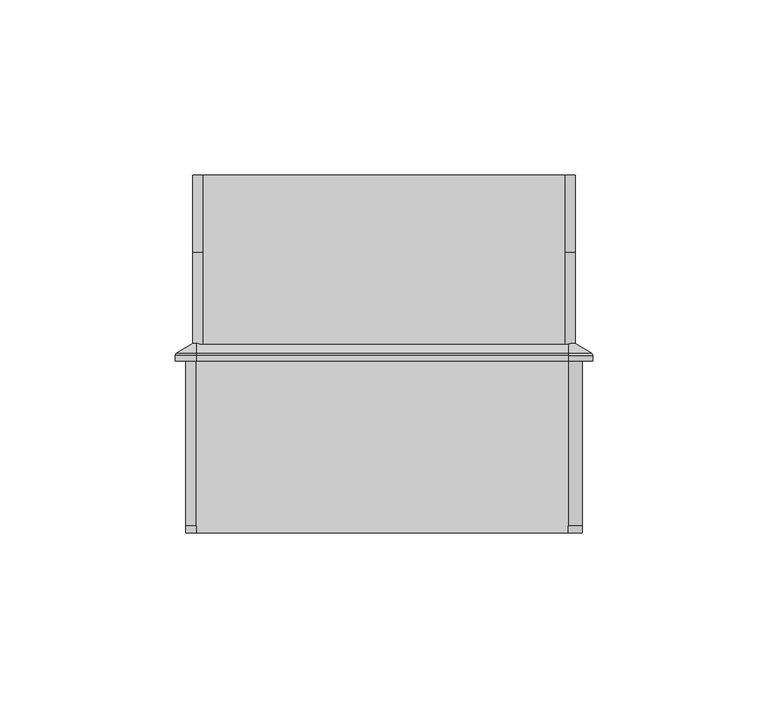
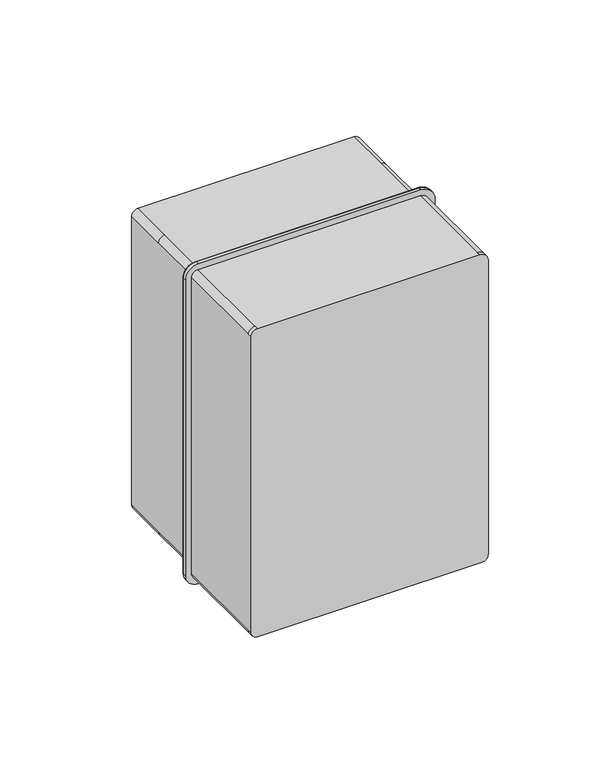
"""IFC4 building model written with IfcOpenShell, lengths in millimetres: proxy geometry, ЩРН-П-5_8_IP65 : ЩРН-П-5_IP65."""

from ifc_helpers import new_model, si_unit, point, frame, origin, place, context, project, spatial, polyline, circle_curve, ellipse_curve, trimmed, outline, extrude, source, transform, mapped, element, save
from ifc_brep_helpers import plane_surface, cylinder_surface, revolved_surface, advanced_brep


def electrical_equipment_affdbc4a(model_context):
    return source(origin(), model_context, "Body", "SolidModel", [
        extrude(outline(polyline([(52.5, 82.0), (-52.5, 82.0), (-52.5, 102.0), (52.5, 102.0), (52.5, 82.0)])), frame((0.0, 0.0, -57.5), z_axis=(0.0, 0.0, 1.0), x_axis=(1.0, 0.0, 0.0)), (0.0, 0.0, 1.0), 115.0),
        advanced_brep(
        [(-53.5, 0.0, 77.5), (-56.5, 0.0, 74.5), (-56.5, 0.0, -74.5), (-53.5, 0.0, -77.5), (53.5, 0.0, -77.5), (56.5, 0.0, -74.5), (56.5, 0.0, 73.5283006), (52.5283006, 0.0, 77.5), (-53.5, 2.0, 77.5), (-56.5, 2.0, 74.5), (-56.5, 49.0, 74.5), (-56.5, 49.0, -74.5), (-56.5, 2.0, -74.5), (-53.5, 2.0, -77.5), (-53.5, 49.0, -77.5), (53.5, 49.0, -77.5), (53.5, 2.0, -77.5), (56.5, 2.0, -74.5), (56.5, 49.0, -74.5), (56.5, 49.0, 73.5283006), (56.5, 2.0, 73.5283006), (52.5283006, 2.0, 77.5), (52.5283006, 49.0, 77.5), (-53.5, 49.0, 77.5)],
        [
            (0, 1, circle_curve(frame((-53.5, 0.0, 74.5), z_axis=(0.0, -1.0, 0.0), x_axis=(1.0, 0.0, 0.0)), 3.0)),
            (1, 2),
            (2, 3, circle_curve(frame((-53.5, 0.0, -74.5), z_axis=(0.0, -1.0, 0.0), x_axis=(1.0, 0.0, 0.0)), 3.0)),
            (3, 4),
            (4, 5, circle_curve(frame((53.5, 0.0, -74.5), z_axis=(0.0, -1.0, 0.0), x_axis=(1.0, 0.0, 0.0)), 3.0)),
            (5, 6),
            (6, 7, circle_curve(frame((52.5283006, 0.0, 73.5283006), z_axis=(0.0, -1.0, 0.0), x_axis=(1.0, 0.0, 0.0)), 3.9716994)),
            (7, 0),
            (0, 8),
            (8, 9, circle_curve(frame((-53.5, 2.0, 74.5), z_axis=(0.0, -1.0, 0.0), x_axis=(1.0, 0.0, 0.0)), 3.0)),
            (9, 1),
            (9, 10),
            (10, 11),
            (11, 12),
            (12, 2),
            (12, 13, circle_curve(frame((-53.5, 2.0, -74.5), z_axis=(0.0, -1.0, 0.0), x_axis=(1.0, 0.0, 0.0)), 3.0)),
            (13, 3),
            (13, 14),
            (14, 15),
            (15, 16),
            (16, 4),
            (16, 17, circle_curve(frame((53.5, 2.0, -74.5), z_axis=(0.0, -1.0, 0.0), x_axis=(1.0, 0.0, 0.0)), 3.0)),
            (17, 5),
            (17, 18),
            (18, 19),
            (19, 20),
            (20, 6),
            (20, 21, circle_curve(frame((52.5283006, 2.0, 73.5283006), z_axis=(0.0, -1.0, 0.0), x_axis=(1.0, 0.0, 0.0)), 3.9716994)),
            (21, 7),
            (21, 22),
            (22, 23),
            (23, 8),
            (22, 19, circle_curve(frame((52.5283006, 49.0, 73.5283006), z_axis=(0.0, 1.0, 0.0), x_axis=(1.0, 0.0, 0.0)), 3.9716994)),
            (18, 15, circle_curve(frame((53.5, 49.0, -74.5), z_axis=(0.0, 1.0, 0.0), x_axis=(1.0, 0.0, 0.0)), 3.0)),
            (14, 11, circle_curve(frame((-53.5, 49.0, -74.5), z_axis=(0.0, 1.0, 0.0), x_axis=(1.0, 0.0, 0.0)), 3.0)),
            (10, 23, circle_curve(frame((-53.5, 49.0, 74.5), z_axis=(0.0, 1.0, 0.0), x_axis=(1.0, 0.0, 0.0)), 3.0)),
        ],
        [
            plane_surface(frame((-50.5, 0.0, 74.5), z_axis=(0.0, -1.0, 0.0), x_axis=(0.0, 0.0, 1.0))),
            cylinder_surface(frame((-53.5, 2.0, 74.5), z_axis=(0.0, -1.0, 0.0), x_axis=(1.0, 0.0, 0.0)), 3.0),
            plane_surface(frame((-56.5, 0.0, 74.5), z_axis=(-1.0, 0.0, 0.0), x_axis=(0.0, 1.0, 0.0))),
            cylinder_surface(frame((-53.5, 2.0, -74.5), z_axis=(0.0, -1.0, 0.0), x_axis=(1.0, 0.0, 0.0)), 3.0),
            plane_surface(frame((-53.5, 0.0, -77.5), z_axis=(0.0, 0.0, -1.0), x_axis=(0.0, 1.0, 0.0))),
            cylinder_surface(frame((53.5, 2.0, -74.5), z_axis=(0.0, -1.0, 0.0), x_axis=(1.0, 0.0, 0.0)), 3.0),
            plane_surface(frame((56.5, 0.0, -74.5), z_axis=(1.0, 0.0, 0.0), x_axis=(0.0, 1.0, 0.0))),
            cylinder_surface(frame((52.5283006, 2.0, 73.5283006), z_axis=(0.0, -1.0, 0.0), x_axis=(1.0, 0.0, 0.0)), 3.9716994),
            plane_surface(frame((52.5283006, 0.0, 77.5), z_axis=(0.0, 0.0, 1.0), x_axis=(0.0, 1.0, 0.0))),
            plane_surface(frame((-53.5, 49.0, 77.5), z_axis=(0.0, 1.0, 0.0), x_axis=(1.0, 0.0, 0.0))),
            cylinder_surface(frame((-53.5, 49.0, 74.5), z_axis=(0.0, -1.0, 0.0), x_axis=(1.0, 0.0, 0.0)), 3.0),
            cylinder_surface(frame((-53.5, 49.0, -74.5), z_axis=(0.0, -1.0, 0.0), x_axis=(1.0, 0.0, 0.0)), 3.0),
            cylinder_surface(frame((53.5, 49.0, -74.5), z_axis=(0.0, -1.0, 0.0), x_axis=(1.0, 0.0, 0.0)), 3.0),
            cylinder_surface(frame((52.5283006, 49.0, 73.5283006), z_axis=(0.0, -1.0, 0.0), x_axis=(1.0, 0.0, 0.0)), 3.9716994),
        ],
        [
            (0, [[1, 2, 3, 4, 5, 6, 7, 8]]),
            (1, [[-1, 9, 10, 11]]),
            (2, [[-2, -11, 12, 13, 14, 15]]),
            (3, [[-3, -15, 16, 17]]),
            (4, [[-4, -17, 18, 19, 20, 21]]),
            (5, [[-5, -21, 22, 23]]),
            (6, [[-6, -23, 24, 25, 26, 27]]),
            (7, [[-7, -27, 28, 29]]),
            (8, [[-8, -29, 30, 31, 32, -9]]),
            (9, [[33, -25, 34, -19, 35, -13, 36, -31]]),
            (10, [[-36, -12, -10, -32]]),
            (11, [[-35, -18, -16, -14]]),
            (12, [[-34, -24, -22, -20]]),
            (13, [[-33, -30, -28, -26]]),
        ],
    ),
        advanced_brep(
        [(51.5, 102.0, 75.5), (54.5, 102.0, 72.5), (54.5, 102.0, -72.5), (51.5, 102.0, -75.5), (-51.5, 102.0, -75.5), (-54.5, 102.0, -72.5), (-54.5, 102.0, 72.5), (-51.5, 102.0, 75.5), (52.5, 102.0, 57.4981471), (-52.5, 102.0, 57.4981471), (-52.5, 102.0, -57.4981471), (52.5, 102.0, -57.4981471), (52.5, 80.0, 57.4981471), (47.9911629, 80.0, 57.4981471), (47.9911629, 49.0, 57.4981471), (-47.9911629, 49.0, 57.4981471), (-47.9911629, 80.0, 57.4981471), (-52.5, 80.0, 57.4981471), (-52.5, 80.0, -57.4981471), (-47.9911629, 80.0, -57.4981471), (-47.9911629, 49.0, -57.4981471), (47.9911629, 49.0, -57.4981471), (47.9911629, 80.0, -57.4981471), (52.5, 80.0, -57.4981471), (-51.5, 80.0, 75.5), (-51.5, 49.0, 75.5), (51.5, 49.0, 75.5), (51.5, 80.0, 75.5), (-54.5, 80.0, 72.5), (-54.5, 80.0, -72.5), (-54.5, 49.0, -72.5), (-54.5, 49.0, 72.5), (-51.5, 80.0, -75.5), (51.5, 80.0, -75.5), (51.5, 49.0, -75.5), (-51.5, 49.0, -75.5), (54.5, 80.0, -72.5), (54.5, 80.0, 72.5), (54.5, 49.0, 72.5), (54.5, 49.0, -72.5)],
        [
            (0, 1, circle_curve(frame((51.5, 102.0, 72.5), z_axis=(0.0, 1.0, 0.0), x_axis=(1.0, 0.0, 0.0)), 3.0)),
            (1, 2),
            (2, 3, circle_curve(frame((51.5, 102.0, -72.5), z_axis=(0.0, 1.0, 0.0), x_axis=(1.0, 0.0, 0.0)), 3.0)),
            (3, 4),
            (4, 5, circle_curve(frame((-51.5, 102.0, -72.5), z_axis=(0.0, 1.0, 0.0), x_axis=(1.0, 0.0, 0.0)), 3.0)),
            (5, 6),
            (6, 7, circle_curve(frame((-51.5, 102.0, 72.5), z_axis=(0.0, 1.0, 0.0), x_axis=(1.0, 0.0, 0.0)), 3.0)),
            (7, 0),
            (8, 9),
            (9, 10),
            (10, 11),
            (11, 8),
            (8, 12),
            (12, 13),
            (13, 14),
            (14, 15),
            (15, 16),
            (16, 17),
            (17, 9),
            (17, 18),
            (18, 10),
            (18, 19),
            (19, 20),
            (20, 21),
            (21, 22),
            (22, 23),
            (23, 11),
            (23, 12),
            (7, 24),
            (24, 25),
            (25, 26),
            (26, 27),
            (27, 0),
            (6, 28),
            (28, 24, circle_curve(frame((-51.5, 80.0, 72.5), z_axis=(0.0, 1.0, 0.0), x_axis=(1.0, 0.0, 0.0)), 3.0)),
            (5, 29),
            (29, 30),
            (30, 31),
            (31, 28),
            (4, 32),
            (32, 29, circle_curve(frame((-51.5, 80.0, -72.5), z_axis=(0.0, 1.0, 0.0), x_axis=(1.0, 0.0, 0.0)), 3.0)),
            (3, 33),
            (33, 34),
            (34, 35),
            (35, 32),
            (2, 36),
            (36, 33, circle_curve(frame((51.5, 80.0, -72.5), z_axis=(0.0, 1.0, 0.0), x_axis=(1.0, 0.0, 0.0)), 3.0)),
            (1, 37),
            (37, 38),
            (38, 39),
            (39, 36),
            (27, 37, circle_curve(frame((51.5, 80.0, 72.5), z_axis=(0.0, 1.0, 0.0), x_axis=(1.0, 0.0, 0.0)), 3.0)),
            (25, 31, circle_curve(frame((-51.5, 49.0, 72.5), z_axis=(0.0, -1.0, 0.0), x_axis=(1.0, 0.0, 0.0)), 3.0)),
            (30, 35, circle_curve(frame((-51.5, 49.0, -72.5), z_axis=(0.0, -1.0, 0.0), x_axis=(1.0, 0.0, 0.0)), 3.0)),
            (34, 39, circle_curve(frame((51.5, 49.0, -72.5), z_axis=(0.0, -1.0, 0.0), x_axis=(1.0, 0.0, 0.0)), 3.0)),
            (38, 26, circle_curve(frame((51.5, 49.0, 72.5), z_axis=(0.0, -1.0, 0.0), x_axis=(1.0, 0.0, 0.0)), 3.0)),
            (14, 21),
            (20, 15),
            (16, 19),
            (22, 13),
        ],
        [
            plane_surface(frame((52.5, 102.0, 57.4981471), z_axis=(0.0, 1.0, 0.0), x_axis=(0.0, 0.0, 1.0))),
            plane_surface(frame((-52.5, 80.0, 57.4981471), z_axis=(0.0, 0.0, -1.0), x_axis=(0.0, 1.0, 0.0))),
            plane_surface(frame((-52.5, 80.0, -57.4981471), z_axis=(1.0, 0.0, 0.0), x_axis=(0.0, 1.0, 0.0))),
            plane_surface(frame((52.5, 80.0, -57.4981471), z_axis=(0.0, 0.0, 1.0), x_axis=(0.0, 1.0, 0.0))),
            plane_surface(frame((52.5, 80.0, 57.4981471), z_axis=(-1.0, 0.0, 0.0), x_axis=(0.0, 1.0, 0.0))),
            plane_surface(frame((51.5, 80.0, 75.5), z_axis=(0.0, 0.0, 1.0), x_axis=(0.0, 1.0, 0.0))),
            cylinder_surface(frame((-51.5, 102.0, 72.5), z_axis=(0.0, -1.0, 0.0), x_axis=(1.0, 0.0, 0.0)), 3.0),
            plane_surface(frame((-54.5, 80.0, 72.5), z_axis=(-1.0, 0.0, 0.0), x_axis=(0.0, 1.0, 0.0))),
            cylinder_surface(frame((-51.5, 102.0, -72.5), z_axis=(0.0, -1.0, 0.0), x_axis=(1.0, 0.0, 0.0)), 3.0),
            plane_surface(frame((-51.5, 80.0, -75.5), z_axis=(0.0, 0.0, -1.0), x_axis=(0.0, 1.0, 0.0))),
            cylinder_surface(frame((51.5, 102.0, -72.5), z_axis=(0.0, -1.0, 0.0), x_axis=(1.0, 0.0, 0.0)), 3.0),
            plane_surface(frame((54.5, 80.0, -72.5), z_axis=(1.0, 0.0, 0.0), x_axis=(0.0, 1.0, 0.0))),
            cylinder_surface(frame((51.5, 102.0, 72.5), z_axis=(0.0, -1.0, 0.0), x_axis=(1.0, 0.0, 0.0)), 3.0),
            plane_surface(frame((47.9911629, 49.0, 57.4981471), z_axis=(0.0, -1.0, 0.0), x_axis=(0.0, 0.0, -1.0))),
            plane_surface(frame((47.9911629, 80.0, 57.4981471), z_axis=(0.0, 1.0, 0.0), x_axis=(0.0, 0.0, 1.0))),
            plane_surface(frame((-47.9911629, 49.0, -57.4981471), z_axis=(1.0, 0.0, 0.0), x_axis=(0.0, 1.0, 0.0))),
            plane_surface(frame((47.9911629, 49.0, 57.4981471), z_axis=(-1.0, 0.0, 0.0), x_axis=(0.0, 1.0, 0.0))),
            cylinder_surface(frame((-51.5, 80.0, 72.5), z_axis=(0.0, -1.0, 0.0), x_axis=(1.0, 0.0, 0.0)), 3.0),
            cylinder_surface(frame((-51.5, 80.0, -72.5), z_axis=(0.0, -1.0, 0.0), x_axis=(1.0, 0.0, 0.0)), 3.0),
            cylinder_surface(frame((51.5, 80.0, -72.5), z_axis=(0.0, -1.0, 0.0), x_axis=(1.0, 0.0, 0.0)), 3.0),
            cylinder_surface(frame((51.5, 80.0, 72.5), z_axis=(0.0, -1.0, 0.0), x_axis=(1.0, 0.0, 0.0)), 3.0),
        ],
        [
            (0, [[1, 2, 3, 4, 5, 6, 7, 8], [9, 10, 11, 12]]),
            (1, [[-9, 13, 14, 15, 16, 17, 18, 19]]),
            (2, [[-10, -19, 20, 21]]),
            (3, [[-11, -21, 22, 23, 24, 25, 26, 27]]),
            (4, [[-12, -27, 28, -13]]),
            (5, [[-8, 29, 30, 31, 32, 33]]),
            (6, [[-7, 34, 35, -29]]),
            (7, [[-6, 36, 37, 38, 39, -34]]),
            (8, [[-5, 40, 41, -36]]),
            (9, [[-4, 42, 43, 44, 45, -40]]),
            (10, [[-3, 46, 47, -42]]),
            (11, [[-2, 48, 49, 50, 51, -46]]),
            (12, [[-1, -33, 52, -48]]),
            (13, [[-31, 53, -38, 54, -44, 55, -50, 56], [57, -24, 58, -16]]),
            (14, [[59, -22, -20, -18]]),
            (14, [[60, -14, -28, -26]]),
            (15, [[-58, -23, -59, -17]]),
            (16, [[-57, -15, -60, -25]]),
            (17, [[-53, -30, -35, -39]]),
            (18, [[-54, -37, -41, -45]]),
            (19, [[-55, -43, -47, -51]]),
            (20, [[-56, -49, -52, -32]]),
        ],
    ),
        advanced_brep(
        [(-59.4898142, 49.0, 74.507075), (-53.4776209, 49.0, 80.5192684), (-53.4776209, 50.5470477, 80.5192684), (-59.4898142, 50.5470477, 74.507075), (-54.4898142, 54.0, 74.507075), (-53.4776209, 54.0, 75.5192684), (-53.4776209, 49.0, 75.5192684), (-54.4898142, 49.0, 74.507075), (-59.4898142, 50.5470477, -74.4754068), (-59.4898142, 49.0, -74.4754068), (-54.4898142, 49.0, -74.4754068), (-54.4898142, 54.0, -74.4754068), (-53.498733, 49.0, -80.466488), (-53.498733, 50.5470477, -80.466488), (-53.498733, 54.0, -75.466488), (-53.498733, 49.0, -75.466488), (53.4496724, 50.5470477, -80.466488), (53.4496724, 49.0, -80.466488), (53.4496724, 49.0, -75.466488), (53.4496724, 54.0, -75.466488), (59.5141503, 49.0, -74.40201), (59.5141503, 50.5470477, -74.40201), (54.5141503, 54.0, -74.40201), (54.5141503, 49.0, -74.40201), (52.5135486, 49.0, 80.5192684), (52.5135486, 50.5470477, 80.5192684), (52.5135486, 54.0, 75.5192684), (52.5135486, 49.0, 75.5192684), (-59.1014108, 51.233042, 74.507075), (-53.4776209, 51.233042, 80.130865), (-59.1014108, 51.233042, -74.4754068), (-53.498733, 51.233042, -80.0780846), (53.4496724, 51.233042, -80.0780846), (59.1257469, 51.233042, -74.40201), (52.5135486, 51.233042, 80.130865), (54.5141503, 54.0, 73.5186666), (59.1257469, 51.233042, 73.5186666), (59.5141503, 50.5470477, 73.5186666), (59.5141503, 49.0, 73.5186666), (54.5141503, 49.0, 73.5186666)],
        [
            (0, 1, circle_curve(frame((-53.4776209, 49.0, 74.507075), z_axis=(0.0, 1.0, 0.0), x_axis=(0.0, 0.0, 1.0)), 6.0121934)),
            (1, 2),
            (2, 3, circle_curve(frame((-53.4776209, 50.5470477, 74.507075), z_axis=(0.0, -1.0, 0.0), x_axis=(0.0, 0.0, 1.0)), 6.0121934)),
            (3, 0),
            (4, 5, circle_curve(frame((-53.4776209, 54.0, 74.507075), z_axis=(0.0, 1.0, 0.0), x_axis=(0.0, 0.0, 1.0)), 1.0121934)),
            (5, 6),
            (6, 7, circle_curve(frame((-53.4776209, 49.0, 74.507075), z_axis=(0.0, -1.0, 0.0), x_axis=(0.0, 0.0, 1.0)), 1.0121934)),
            (7, 4),
            (3, 8),
            (8, 9),
            (9, 0),
            (7, 10),
            (10, 11),
            (11, 4),
            (12, 9, circle_curve(frame((-53.498733, 49.0, -74.4754068), z_axis=(0.0, 1.0, 0.0), x_axis=(-1.0, 0.0, 0.0)), 5.9910812)),
            (8, 13, circle_curve(frame((-53.498733, 50.5470477, -74.4754068), z_axis=(0.0, -1.0, 0.0), x_axis=(-1.0, 0.0, 0.0)), 5.9910812)),
            (13, 12),
            (14, 11, circle_curve(frame((-53.498733, 54.0, -74.4754068), z_axis=(0.0, 1.0, 0.0), x_axis=(-1.0, 0.0, 0.0)), 0.9910812)),
            (10, 15, circle_curve(frame((-53.498733, 49.0, -74.4754068), z_axis=(0.0, -1.0, 0.0), x_axis=(-1.0, 0.0, 0.0)), 0.9910812)),
            (15, 14),
            (13, 16),
            (16, 17),
            (17, 12),
            (15, 18),
            (18, 19),
            (19, 14),
            (20, 17, circle_curve(frame((53.4496724, 49.0, -74.40201), z_axis=(0.0, 1.0, 0.0), x_axis=(0.0, 0.0, -1.0)), 6.064478)),
            (16, 21, circle_curve(frame((53.4496724, 50.5470477, -74.40201), z_axis=(0.0, -1.0, 0.0), x_axis=(0.0, 0.0, -1.0)), 6.064478)),
            (21, 20),
            (22, 19, circle_curve(frame((53.4496724, 54.0, -74.40201), z_axis=(0.0, 1.0, 0.0), x_axis=(0.0, 0.0, -1.0)), 1.064478)),
            (18, 23, circle_curve(frame((53.4496724, 49.0, -74.40201), z_axis=(0.0, -1.0, 0.0), x_axis=(0.0, 0.0, -1.0)), 1.064478)),
            (23, 22),
            (24, 25),
            (25, 2),
            (1, 24),
            (26, 27),
            (27, 6),
            (5, 26),
            (28, 29, circle_curve(frame((-53.4776209, 51.233042, 74.507075), z_axis=(0.0, 1.0, 0.0), x_axis=(0.0, 0.0, 1.0)), 5.62379)),
            (29, 5),
            (4, 28),
            (2, 29, circle_curve(frame((-53.4776209, 50.5470477, 79.7192684), z_axis=(-1.0, 0.0, 0.0), x_axis=(0.0, 0.0, -1.0)), 0.8)),
            (28, 3, circle_curve(frame((-58.6898142, 50.5470477, 74.507075), z_axis=(0.0, 0.0, 1.0), x_axis=(1.0, 0.0, 0.0)), 0.8)),
            (11, 30),
            (30, 28),
            (30, 8, circle_curve(frame((-58.6898142, 50.5470477, -74.4754068), z_axis=(0.0, 0.0, 1.0), x_axis=(1.0, 0.0, 0.0)), 0.8)),
            (31, 30, circle_curve(frame((-53.498733, 51.233042, -74.4754068), z_axis=(0.0, 1.0, 0.0), x_axis=(-1.0, 0.0, 0.0)), 5.6026778)),
            (14, 31),
            (31, 13, circle_curve(frame((-53.498733, 50.5470477, -79.666488), z_axis=(-1.0, 0.0, 0.0), x_axis=(0.0, 0.0, 1.0)), 0.8)),
            (19, 32),
            (32, 31),
            (32, 16, circle_curve(frame((53.4496724, 50.5470477, -79.666488), z_axis=(-1.0, 0.0, 0.0), x_axis=(0.0, 0.0, 1.0)), 0.8)),
            (33, 32, circle_curve(frame((53.4496724, 51.233042, -74.40201), z_axis=(0.0, 1.0, 0.0), x_axis=(0.0, 0.0, -1.0)), 5.6760746)),
            (22, 33),
            (33, 21, circle_curve(frame((58.7141503, 50.5470477, -74.40201), z_axis=(0.0, 0.0, -1.0), x_axis=(-1.0, 0.0, 0.0)), 0.8)),
            (34, 26),
            (29, 34),
            (25, 34, circle_curve(frame((52.5135486, 50.5470477, 79.7192684), z_axis=(-1.0, 0.0, 0.0), x_axis=(0.0, 0.0, -1.0)), 0.8)),
            (22, 35),
            (35, 36),
            (36, 33),
            (36, 37, circle_curve(frame((58.7141503, 50.5470477, 73.5186666), z_axis=(0.0, 0.0, -1.0), x_axis=(-1.0, 0.0, 0.0)), 0.8)),
            (37, 21),
            (37, 38),
            (38, 20),
            (23, 39),
            (39, 35),
            (34, 36, circle_curve(frame((52.5135486, 51.233042, 73.5186666), z_axis=(0.0, 1.0, 0.0), x_axis=(1.0, 0.0, 0.0)), 6.6121984)),
            (35, 26, circle_curve(frame((52.5135486, 54.0, 73.5186666), z_axis=(0.0, -1.0, 0.0), x_axis=(1.0, 0.0, 0.0)), 2.0006018)),
            (25, 37, circle_curve(frame((52.5135486, 50.5470477, 73.5186666), z_axis=(0.0, 1.0, 0.0), x_axis=(1.0, 0.0, 0.0)), 7.0006018)),
            (24, 38, circle_curve(frame((52.5135486, 49.0, 73.5186666), z_axis=(0.0, 1.0, 0.0), x_axis=(1.0, 0.0, 0.0)), 7.0006018)),
            (27, 39, circle_curve(frame((52.5135486, 49.0, 73.5186666), z_axis=(0.0, 1.0, 0.0), x_axis=(1.0, 0.0, 0.0)), 2.0006018)),
        ],
        [
            cylinder_surface(frame((-53.4776209, 0.0, 74.507075), z_axis=(0.0, -1.0, 0.0), x_axis=(0.0, 0.0, 1.0)), 6.0121934),
            revolved_surface(polyline([(-53.4776209, 49.0, 75.5192684), (-53.4776209, 54.0, 75.5192684)]), (-53.4776209, 0.0, 74.507075), (0.0, -1.0, 0.0)),
            plane_surface(frame((-59.4898142, 50.5470477, 74.507075), z_axis=(-1.0, 0.0, 0.0), x_axis=(0.0, 0.0, -1.0))),
            plane_surface(frame((-54.4898142, 49.0, 74.507075), z_axis=(1.0, 0.0, 0.0), x_axis=(0.0, 0.0, -1.0))),
            cylinder_surface(frame((-53.498733, 0.0, -74.4754068), z_axis=(0.0, -1.0, 0.0), x_axis=(-1.0, 0.0, 0.0)), 5.9910812),
            revolved_surface(polyline([(-54.4898142, 49.0, -74.4754068), (-54.4898142, 54.0, -74.4754068)]), (-53.498733, 0.0, -74.4754068), (0.0, -1.0, 0.0)),
            plane_surface(frame((-53.498733, 50.5470477, -80.466488), z_axis=(0.0, 0.0, -1.0), x_axis=(1.0, 0.0, 0.0))),
            plane_surface(frame((-53.498733, 49.0, -75.466488), z_axis=(0.0, 0.0, 1.0), x_axis=(1.0, 0.0, 0.0))),
            cylinder_surface(frame((53.4496724, 0.0, -74.40201), z_axis=(0.0, -1.0, 0.0), x_axis=(0.0, 0.0, -1.0)), 6.064478),
            revolved_surface(polyline([(53.4496724, 49.0, -75.466488), (53.4496724, 54.0, -75.466488)]), (53.4496724, 0.0, -74.40201), (0.0, -1.0, 0.0)),
            plane_surface(frame((52.5135486, 50.5470477, 80.5192684), z_axis=(0.0, 0.0, 1.0), x_axis=(-1.0, 0.0, 0.0))),
            plane_surface(frame((52.5135486, 49.0, 75.5192684), z_axis=(0.0, 0.0, -1.0), x_axis=(-1.0, 0.0, 0.0))),
            revolved_surface(polyline([(-53.4776209, 54.0, 75.5192684), (-53.4776209, 51.233042, 80.130865)]), (-53.4776209, 0.0, 74.507075), (0.0, -1.0, 0.0)),
            revolved_surface(trimmed(ellipse_curve(frame((-53.4776209, 50.5470477, 79.7192684), z_axis=(1.0, 0.0, 0.0), x_axis=(0.0, 0.0, -1.0)), 0.8, 0.8), [point((-53.4776209, 51.233042, 80.130865))], [point((-53.4776209, 50.5470477, 80.5192684))], True, "CARTESIAN"), (-53.4776209, 0.0, 74.507075), (0.0, -1.0, 0.0)),
            plane_surface(frame((-54.4898142, 54.0, 74.507075), z_axis=(-0.5144957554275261, 0.8574929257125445, 0.0), x_axis=(0.0, 0.0, -1.0))),
            cylinder_surface(frame((-58.6898142, 50.5470477, 74.507075), z_axis=(0.0, 0.0, 1.0), x_axis=(1.0, 0.0, 0.0)), 0.8),
            revolved_surface(polyline([(-54.4898142, 54.0, -74.4754068), (-59.1014108, 51.233042, -74.4754068)]), (-53.498733, 0.0, -74.4754068), (0.0, -1.0, 0.0)),
            revolved_surface(trimmed(ellipse_curve(frame((-58.6898142, 50.5470477, -74.4754068), z_axis=(0.0, 0.0, 1.0), x_axis=(1.0, 0.0, 0.0)), 0.8, 0.8), [point((-59.1014108, 51.233042, -74.4754068))], [point((-59.4898142, 50.5470477, -74.4754068))], True, "CARTESIAN"), (-53.498733, 0.0, -74.4754068), (0.0, -1.0, 0.0)),
            plane_surface(frame((-53.498733, 54.0, -75.466488), z_axis=(0.0, 0.8574929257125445, -0.5144957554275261), x_axis=(1.0, 0.0, 0.0))),
            cylinder_surface(frame((-53.498733, 50.5470477, -79.666488), z_axis=(-1.0, 0.0, 0.0), x_axis=(0.0, 0.0, 1.0)), 0.8),
            revolved_surface(polyline([(53.4496724, 54.0, -75.466488), (53.4496724, 51.233042, -80.0780846)]), (53.4496724, 0.0, -74.40201), (0.0, -1.0, 0.0)),
            revolved_surface(trimmed(ellipse_curve(frame((53.4496724, 50.5470477, -79.666488), z_axis=(-1.0, 0.0, 0.0), x_axis=(0.0, 0.0, 1.0)), 0.8, 0.8), [point((53.4496724, 51.233042, -80.0780846))], [point((53.4496724, 50.5470477, -80.466488))], True, "CARTESIAN"), (53.4496724, 0.0, -74.40201), (0.0, -1.0, 0.0)),
            plane_surface(frame((52.5135486, 54.0, 75.5192684), z_axis=(0.0, 0.8574929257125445, 0.5144957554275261), x_axis=(-1.0, 0.0, 0.0))),
            cylinder_surface(frame((52.5135486, 50.5470477, 79.7192684), z_axis=(1.0, 0.0, 0.0), x_axis=(0.0, 0.0, -1.0)), 0.8),
            plane_surface(frame((54.5141503, 54.0, -74.40201), z_axis=(0.5144957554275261, 0.8574929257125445, 0.0), x_axis=(0.0, 0.0, 1.0))),
            cylinder_surface(frame((58.7141503, 50.5470477, -74.40201), z_axis=(0.0, 0.0, -1.0), x_axis=(-1.0, 0.0, 0.0)), 0.8),
            plane_surface(frame((59.5141503, 50.5470477, -74.40201), z_axis=(1.0, 0.0, 0.0), x_axis=(0.0, 0.0, 1.0))),
            plane_surface(frame((54.5141503, 49.0, -74.40201), z_axis=(-1.0, 0.0, 0.0), x_axis=(0.0, 0.0, 1.0))),
            revolved_surface(polyline([(54.5141503, 54.0, 73.5186666), (59.1257469, 51.233042, 73.5186666)]), (52.5135486, 0.0, 73.5186666), (0.0, -1.0, 0.0)),
            revolved_surface(trimmed(ellipse_curve(frame((58.7141503, 50.5470477, 73.5186666), z_axis=(0.0, 0.0, -1.0), x_axis=(-1.0, 0.0, 0.0)), 0.8, 0.8), [point((59.1257469, 51.233042, 73.5186666))], [point((59.5141503, 50.5470477, 73.5186666))], True, "CARTESIAN"), (52.5135486, 0.0, 73.5186666), (0.0, -1.0, 0.0)),
            cylinder_surface(frame((52.5135486, 0.0, 73.5186666), z_axis=(0.0, -1.0, 0.0), x_axis=(1.0, 0.0, 0.0)), 7.0006018),
            plane_surface(frame((52.5135486, 49.0, 73.5186666), z_axis=(0.0, -1.0, 0.0), x_axis=(1.0, 0.0, 0.0))),
            revolved_surface(polyline([(54.5141504, 49.0, 73.5186666), (54.5141504, 54.0, 73.5186666)]), (52.5135486, 0.0, 73.5186666), (0.0, -1.0, 0.0)),
        ],
        [
            (0, [[1, 2, 3, 4]]),
            (1, [[5, 6, 7, 8]]),
            (2, [[-4, 9, 10, 11]]),
            (3, [[-8, 12, 13, 14]]),
            (4, [[15, -10, 16, 17]]),
            (5, [[18, -13, 19, 20]]),
            (6, [[-17, 21, 22, 23]]),
            (7, [[-20, 24, 25, 26]]),
            (8, [[27, -22, 28, 29]]),
            (9, [[30, -25, 31, 32]]),
            (10, [[33, 34, -2, 35]]),
            (11, [[36, 37, -6, 38]]),
            (12, [[39, 40, -5, 41]]),
            (13, [[-3, 42, -39, 43]]),
            (14, [[-41, -14, 44, 45]]),
            (15, [[-43, -45, 46, -9]]),
            (16, [[47, -44, -18, 48]]),
            (17, [[-16, -46, -47, 49]]),
            (18, [[-48, -26, 50, 51]]),
            (19, [[-49, -51, 52, -21]]),
            (20, [[53, -50, -30, 54]]),
            (21, [[-28, -52, -53, 55]]),
            (22, [[56, -38, -40, 57]]),
            (23, [[58, -57, -42, -34]]),
            (24, [[-54, 59, 60, 61]]),
            (25, [[-55, -61, 62, 63]]),
            (26, [[-29, -63, 64, 65]]),
            (27, [[-32, 66, 67, -59]]),
            (28, [[68, -60, 69, -56]]),
            (29, [[70, -62, -68, -58]]),
            (30, [[71, -64, -70, -33]]),
            (31, [[-27, -65, -71, -35, -1, -11, -15, -23], [72, -66, -31, -24, -19, -12, -7, -37]]),
            (32, [[-69, -67, -72, -36]]),
        ],
    ),
    ])


if __name__ == "__main__":
    model = new_model("IFC4")
    model_context = context("Model", 3, world=origin())
    ifc_project = project(units=[si_unit("LENGTHUNIT", "METRE", prefix="MILLI")], contexts=[model_context])
    site = spatial("IfcSite", under=ifc_project)
    building = spatial("IfcBuilding", under=site)
    placement = place(None, origin())
    electrical_equipment_shape = electrical_equipment_affdbc4a(model_context)
    element("IfcBuildingElementProxy", 1, Name="ЩРН-П-5_8_IP65 : ЩРН-П-5_IP65", ObjectType="ЩРН-П-5_8_IP65 : ЩРН-П-5_IP65", at=placement, inside=building, context=model_context, shape_type="MappedRepresentation", body=[
        mapped(electrical_equipment_shape, transform((0.0, 0.0, 0.0), x_axis=(1.0, 0.0, 0.0), y_axis=(0.0, 1.0, 0.0), z_axis=(0.0, 0.0, 1.0))),
    ])
    save(model, "model.ifc")
